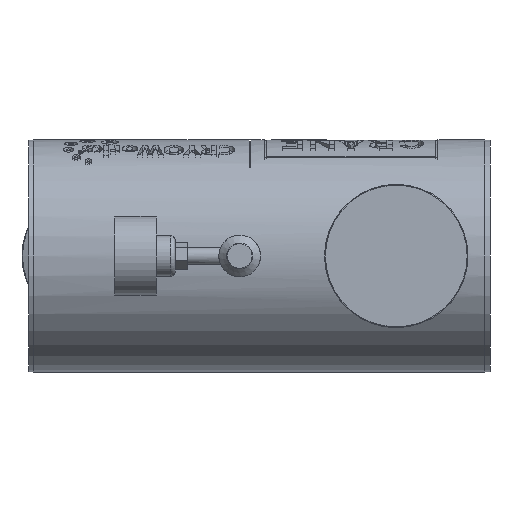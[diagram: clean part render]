
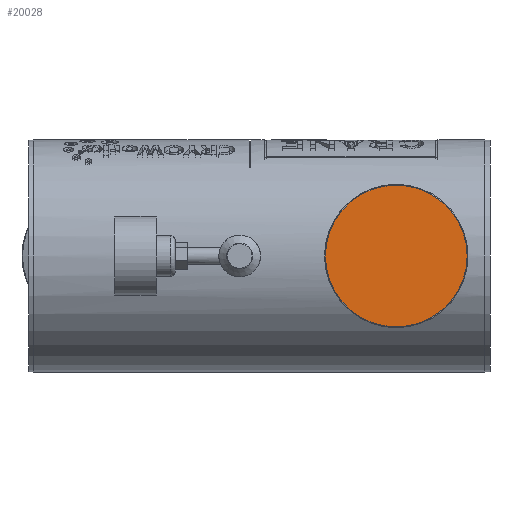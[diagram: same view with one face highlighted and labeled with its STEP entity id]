
A CAD part, left-side view. The second image highlights one B-rep face of the part: STEP entity #20028.
In plain terms, the highlighted planar face has unit normal (-1, -0.018, 0).
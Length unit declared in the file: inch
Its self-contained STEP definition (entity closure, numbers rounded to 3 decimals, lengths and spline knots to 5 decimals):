
#1699 = EDGE_CURVE ( 'NONE', #28410, #28410, #15741, .T. ) ;
#6674 = DIRECTION ( 'NONE',  ( -1., -0.017, 0. ) ) ;
#7420 = CARTESIAN_POINT ( 'NONE',  ( 0., 0., -1.6985 ) ) ;
#10754 = EDGE_LOOP ( 'NONE', ( #26372 ) ) ;
#14328 = DIRECTION ( 'NONE',  ( 0., 0., -1. ) ) ;
#15741 = CIRCLE ( 'NONE', #27651, 1.6985 ) ;
#15746 = DIRECTION ( 'NONE',  ( 0., 0., -1. ) ) ;
#16708 = CARTESIAN_POINT ( 'NONE',  ( 0.02999, -1.71824, 0. ) ) ;
#17864 = AXIS2_PLACEMENT_3D ( 'NONE', #16708, #25364, #14328 ) ;
#19086 = FACE_OUTER_BOUND ( 'NONE', #10754, .T. ) ;
#20028 = ADVANCED_FACE ( 'NONE', ( #19086 ), #23565, .T. ) ;
#23565 = PLANE ( 'NONE',  #17864 ) ;
#25364 = DIRECTION ( 'NONE',  ( -1., -0.017, 0. ) ) ;
#26372 = ORIENTED_EDGE ( 'NONE', *, *, #1699, .T. ) ;
#26933 = CARTESIAN_POINT ( 'NONE',  ( 0., 0., 0. ) ) ;
#27651 = AXIS2_PLACEMENT_3D ( 'NONE', #26933, #6674, #15746 ) ;
#28410 = VERTEX_POINT ( 'NONE', #7420 ) ;
